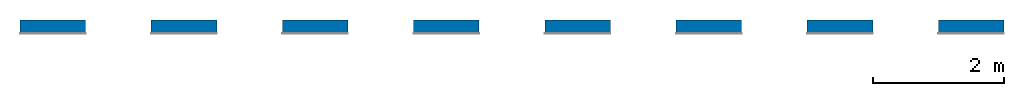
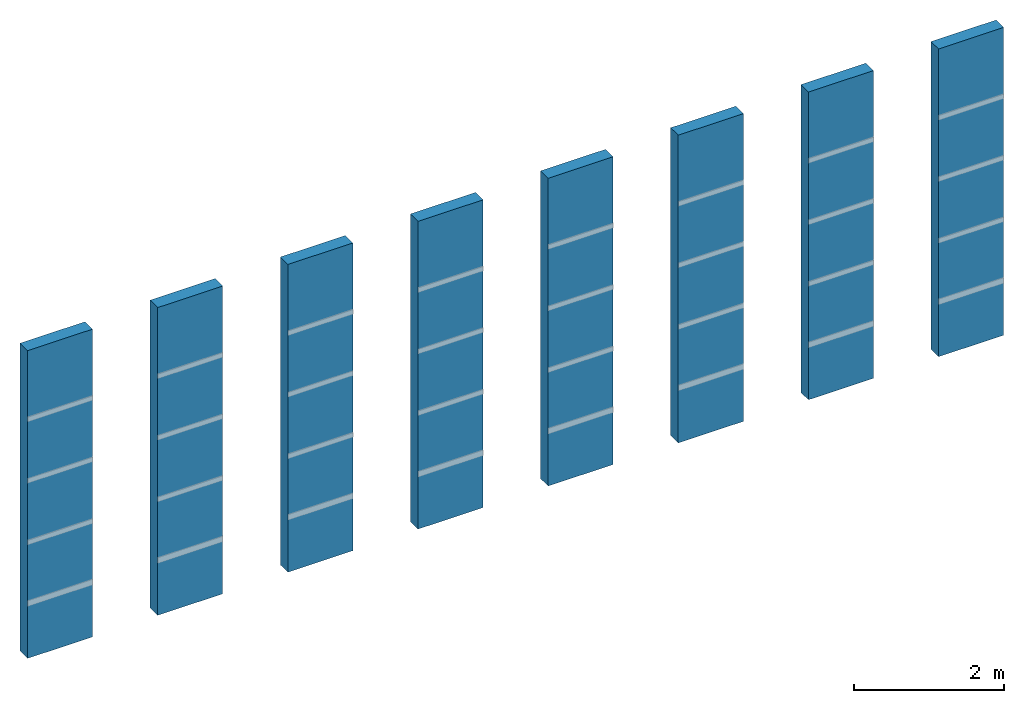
# One storey, part 1 of 3: 8 walls.
"""IFC2X3 building model written with IfcOpenShell, lengths in millimetres."""

from ifc_helpers import new_model, entity, si_unit, converted_unit, derived_unit, direction, frame, frame_2d, origin, place, context, subcontext, project, spatial, rectangle, extrude, type_object, element, save


model = new_model("IFC2X3")

# Units and contexts
model_context = context("Model", 3, precision=0.01, world=origin(), true_north=direction((6.12303176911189e-17, 1.0)))
body_context = subcontext(model_context, "Body", "Model", "MODEL_VIEW")
ifc_project = project(units=[si_unit("LENGTHUNIT", "METRE", prefix="MILLI"), si_unit("AREAUNIT", "SQUARE_METRE"), si_unit("VOLUMEUNIT", "CUBIC_METRE"), converted_unit("PLANEANGLEUNIT", "DEGREE", entity("IfcRatioMeasure", 0.0174532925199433), si_unit("PLANEANGLEUNIT", "RADIAN"), dimensions=[0, 0, 0, 0, 0, 0, 0]), si_unit("MASSUNIT", "GRAM", prefix="KILO"), derived_unit("MASSDENSITYUNIT", [(si_unit("MASSUNIT", "GRAM", prefix="KILO"), 1), (si_unit("LENGTHUNIT", "METRE"), -3)]), derived_unit("MOMENTOFINERTIAUNIT", [(si_unit("LENGTHUNIT", "METRE"), 4)]), si_unit("TIMEUNIT", "SECOND"), si_unit("FREQUENCYUNIT", "HERTZ"), si_unit("THERMODYNAMICTEMPERATUREUNIT", "DEGREE_CELSIUS"), derived_unit("THERMALTRANSMITTANCEUNIT", [(si_unit("MASSUNIT", "GRAM", prefix="KILO"), 1), (si_unit("THERMODYNAMICTEMPERATUREUNIT", "KELVIN"), -1), (si_unit("TIMEUNIT", "SECOND"), -3)]), derived_unit("VOLUMETRICFLOWRATEUNIT", [(si_unit("LENGTHUNIT", "METRE"), 3), (si_unit("TIMEUNIT", "SECOND"), -1)]), si_unit("ELECTRICCURRENTUNIT", "AMPERE"), si_unit("ELECTRICVOLTAGEUNIT", "VOLT"), si_unit("POWERUNIT", "WATT"), si_unit("FORCEUNIT", "NEWTON", prefix="KILO"), si_unit("ILLUMINANCEUNIT", "LUX"), si_unit("LUMINOUSFLUXUNIT", "LUMEN"), si_unit("LUMINOUSINTENSITYUNIT", "CANDELA"), derived_unit("USERDEFINED", [(si_unit("MASSUNIT", "GRAM", prefix="KILO"), -1), (si_unit("LENGTHUNIT", "METRE"), -2), (si_unit("TIMEUNIT", "SECOND"), 3), (si_unit("LUMINOUSFLUXUNIT", "LUMEN"), 1)]), derived_unit("LINEARVELOCITYUNIT", [(si_unit("LENGTHUNIT", "METRE"), 1), (si_unit("TIMEUNIT", "SECOND"), -1)]), si_unit("PRESSUREUNIT", "PASCAL"), derived_unit("USERDEFINED", [(si_unit("LENGTHUNIT", "METRE"), -2), (si_unit("MASSUNIT", "GRAM", prefix="KILO"), 1), (si_unit("TIMEUNIT", "SECOND"), -2)]), derived_unit("LINEARFORCEUNIT", [(si_unit("MASSUNIT", "GRAM", prefix="KILO"), 1), (si_unit("LENGTHUNIT", "METRE"), 1), (si_unit("TIMEUNIT", "SECOND"), -2), (si_unit("LENGTHUNIT", "METRE"), -1)]), derived_unit("PLANARFORCEUNIT", [(si_unit("MASSUNIT", "GRAM", prefix="KILO"), 1), (si_unit("LENGTHUNIT", "METRE"), 1), (si_unit("TIMEUNIT", "SECOND"), -2), (si_unit("LENGTHUNIT", "METRE"), -2)])], contexts=[model_context])

# Site, building, storey
site_placement = place(None, origin())
site = spatial("IfcSite", under=ifc_project, at=site_placement, Name="Default", CompositionType="ELEMENT")
building_placement = place(site_placement, origin())
building = spatial("IfcBuilding", under=site, at=building_placement, CompositionType="ELEMENT")
storey_placement = place(building_placement, origin())
storey = spatial("IfcBuildingStorey", under=building, at=storey_placement, Name="Level 1", CompositionType="ELEMENT", Elevation=0.0)

# Walls
wall_type = type_object("IfcWallType", Name="Basic Wall:Wall 1", PredefinedType="STANDARD")
for number, where, name in (
    (1, (5592.00231570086, -6873.11532249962, 0.0), "Basic Wall:Wall 1"),
    (2, (7592.00231570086, -6873.11532249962, 0.0), "Basic Wall:Wall 1"),
    (3, (9592.00231570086, -6873.11532249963, 0.0), "Basic Wall:Wall 1"),
):
    element("IfcWallStandardCase", number, at=place(storey_placement, frame(where)), inside=storey, type_object=wall_type, Name=name, ObjectType="Basic Wall:Wall 1", context=body_context, shape_type="SweptSolid", body=[
        extrude(rectangle(XDim=1000.0, YDim=200.0, at=frame_2d((500.000000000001, 3.5527136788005e-14), x_axis=(-1.0, 0.0))), origin(), (0.0, 0.0, 1.0), 5000.0),
    ])
for number, where, name in (
    (4, (11592.0023157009, -6873.11532249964, 0.0), "Basic Wall:Wall 1"),
    (5, (13592.0023157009, -6873.11532249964, 0.0), "Basic Wall:Wall 1"),
    (6, (15592.0023157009, -6873.11532249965, 0.0), "Basic Wall:Wall 1"),
    (7, (17592.0023157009, -6873.11532249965, 0.0), "Basic Wall:Wall 1"),
):
    element("IfcWallStandardCase", number, at=place(storey_placement, frame(where)), inside=storey, type_object=wall_type, Name=name, ObjectType="Basic Wall:Wall 1", context=body_context, shape_type="SweptSolid", body=[
        extrude(rectangle(XDim=1000.0, YDim=200.0, at=frame_2d((500.0, 3.5527136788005e-14), x_axis=(-1.0, 0.0))), origin(), (0.0, 0.0, 1.0), 5000.0),
    ])
wall_placement = place(storey_placement, frame((19592.0023157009, -6873.11532249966, 0.0)))
element("IfcWallStandardCase", 8, at=wall_placement, inside=storey, type_object=wall_type, Name="Basic Wall:Wall 1", ObjectType="Basic Wall:Wall 1", context=body_context, shape_type="SweptSolid", body=[
    extrude(rectangle(XDim=1000.0, YDim=200.0, at=frame_2d((500.000000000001, 3.5527136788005e-14), x_axis=(-1.0, 0.0))), origin(), (0.0, 0.0, 1.0), 5000.0),
])

save(model, "model.ifc")
